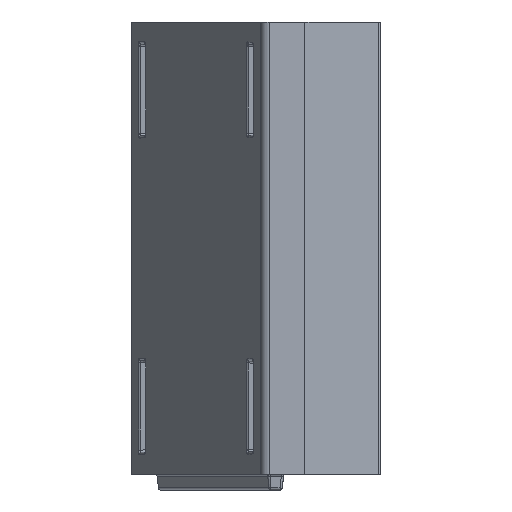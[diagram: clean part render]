
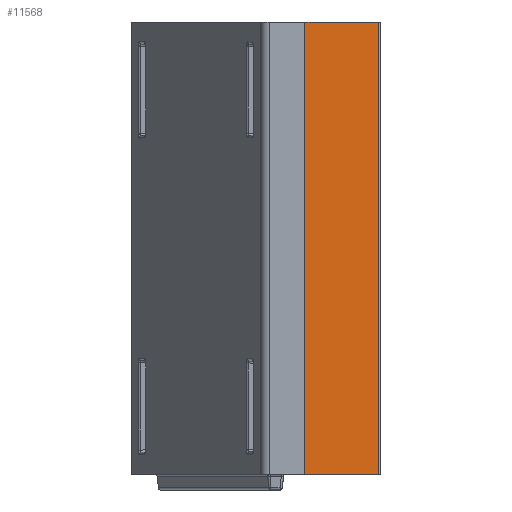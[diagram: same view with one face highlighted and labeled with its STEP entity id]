
A CAD part, left-side view. The second image highlights one B-rep face of the part: STEP entity #11568.
In plain terms, the highlighted planar face has unit normal (-0.999, -0.035, 0).
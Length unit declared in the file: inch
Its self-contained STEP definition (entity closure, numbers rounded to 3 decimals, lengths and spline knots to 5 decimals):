
#58 = EDGE_CURVE ( 'NONE', #7837, #9003, #11641, .T. ) ;
#193 = DIRECTION ( 'NONE',  ( 0., 0., 1. ) ) ;
#476 = CARTESIAN_POINT ( 'NONE',  ( -0.56433, -0.40406, -0.5 ) ) ;
#604 = DIRECTION ( 'NONE',  ( 0.035, -0.999, 0. ) ) ;
#673 = CARTESIAN_POINT ( 'NONE',  ( -0.56417, -0.40889, 0.5 ) ) ;
#847 = DIRECTION ( 'NONE',  ( 0.035, -0.999, 0. ) ) ;
#954 = LINE ( 'NONE', #1990, #11030 ) ;
#1145 = CARTESIAN_POINT ( 'NONE',  ( -0.56433, -0.40406, 0.5 ) ) ;
#1726 = FACE_OUTER_BOUND ( 'NONE', #10793, .T. ) ;
#1891 = VECTOR ( 'NONE', #847, 39.37008 ) ;
#1990 = CARTESIAN_POINT ( 'NONE',  ( -0.57001, -0.24159, 0.5 ) ) ;
#2053 = CARTESIAN_POINT ( 'NONE',  ( -0.56433, -0.40406, 0.5 ) ) ;
#2489 = VERTEX_POINT ( 'NONE', #3743 ) ;
#2728 = LINE ( 'NONE', #673, #8461 ) ;
#3743 = CARTESIAN_POINT ( 'NONE',  ( -0.57001, -0.24159, -0.5 ) ) ;
#5156 = CARTESIAN_POINT ( 'NONE',  ( -0.56417, -0.40889, -0.5 ) ) ;
#5304 = ORIENTED_EDGE ( 'NONE', *, *, #11302, .T. ) ;
#5710 = CARTESIAN_POINT ( 'NONE',  ( -0.57001, -0.24159, 0.5 ) ) ;
#5916 = ORIENTED_EDGE ( 'NONE', *, *, #58, .T. ) ;
#6177 = CARTESIAN_POINT ( 'NONE',  ( -0.56417, -0.40889, 0.5 ) ) ;
#7166 = VECTOR ( 'NONE', #193, 39.37008 ) ;
#7837 = VERTEX_POINT ( 'NONE', #476 ) ;
#8461 = VECTOR ( 'NONE', #604, 39.37008 ) ;
#8969 = DIRECTION ( 'NONE',  ( 0.999, 0.035, 0. ) ) ;
#9003 = VERTEX_POINT ( 'NONE', #2053 ) ;
#9031 = EDGE_CURVE ( 'NONE', #12839, #2489, #954, .T. ) ;
#10793 = EDGE_LOOP ( 'NONE', ( #13002, #5304, #5916, #12209 ) ) ;
#11030 = VECTOR ( 'NONE', #11253, 39.37008 ) ;
#11253 = DIRECTION ( 'NONE',  ( 0., 0., -1. ) ) ;
#11302 = EDGE_CURVE ( 'NONE', #2489, #7837, #13333, .T. ) ;
#11568 = ADVANCED_FACE ( 'NONE', ( #1726 ), #12170, .F. ) ;
#11641 = LINE ( 'NONE', #1145, #7166 ) ;
#12098 = DIRECTION ( 'NONE',  ( -0.035, 0.999, 0. ) ) ;
#12170 = PLANE ( 'NONE',  #13242 ) ;
#12209 = ORIENTED_EDGE ( 'NONE', *, *, #12285, .F. ) ;
#12285 = EDGE_CURVE ( 'NONE', #12839, #9003, #2728, .T. ) ;
#12839 = VERTEX_POINT ( 'NONE', #5710 ) ;
#13002 = ORIENTED_EDGE ( 'NONE', *, *, #9031, .T. ) ;
#13242 = AXIS2_PLACEMENT_3D ( 'NONE', #6177, #8969, #12098 ) ;
#13333 = LINE ( 'NONE', #5156, #1891 ) ;
